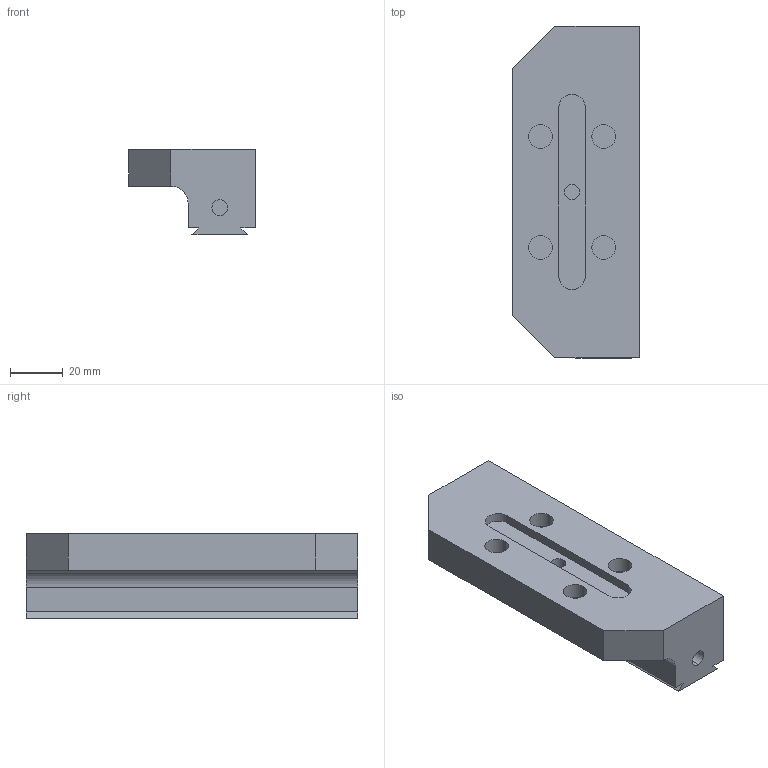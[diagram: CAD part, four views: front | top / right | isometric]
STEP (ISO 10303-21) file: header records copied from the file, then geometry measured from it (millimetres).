
FILE_DESCRIPTION (( 'STEP AP214' ), '1' );
FILE_NAME ('D_V562X-5.STEP', '2020-06-15T21:47:56', ( '' ), ( '' ), 'SwSTEP 2.0', 'SolidWorks 2018', '' );
FILE_SCHEMA (( 'AUTOMOTIVE_DESIGN' ));
Length unit declared in the file: millimetre
Products named in the file (1): D_V562X-5
Bounding box: 48.01 x 125.73 x 32.25 mm (x, y, z)
Volume: 127889.9 mm3; surface area: 28210.1 mm2
Topology: 1 solids, 1 shells, 65 faces, 147 edges, 98 vertices
Faces by surface type: cylinder 33, plane 32
Entity records: 1901 total; most frequent: DIRECTION 341, CARTESIAN_POINT 339, ORIENTED_EDGE 294, EDGE_CURVE 147, AXIS2_PLACEMENT_3D 132, VERTEX_POINT 98, EDGE_LOOP 79, VECTOR 77
